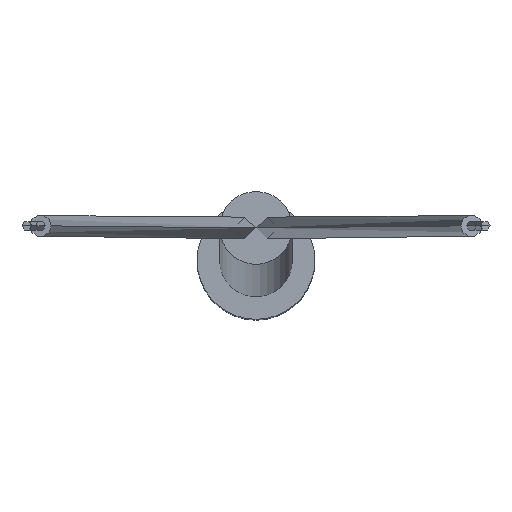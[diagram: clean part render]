
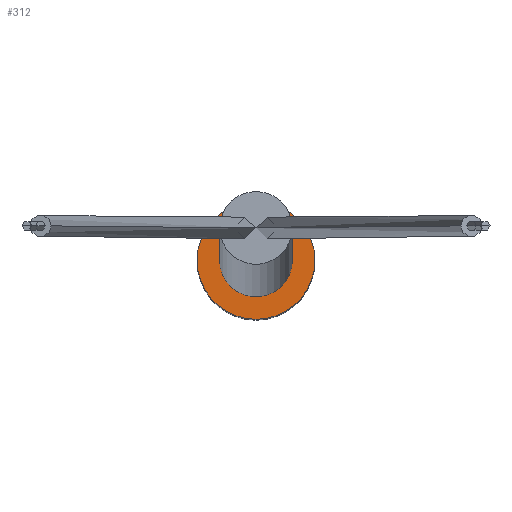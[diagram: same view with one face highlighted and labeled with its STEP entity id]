
A CAD part, top view. The second image highlights one B-rep face of the part: STEP entity #312.
In plain terms, the highlighted planar face has unit normal (0, 0, 1).
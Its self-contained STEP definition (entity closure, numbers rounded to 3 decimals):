
#152=CARTESIAN_POINT('',(0.,0.,0.));
#153=DIRECTION('',(0.,0.,-1.));
#154=DIRECTION('',(0.,-1.,0.));
#155=AXIS2_PLACEMENT_3D('',#152,#153,#154);
#161=CARTESIAN_POINT('',(0.,0.,0.));
#162=DIRECTION('',(0.,0.,-1.));
#163=DIRECTION('',(0.,1.,0.));
#164=AXIS2_PLACEMENT_3D('',#161,#162,#163);
#169=CARTESIAN_POINT('',(0.,0.,0.));
#170=DIRECTION('',(0.,0.,-1.));
#171=DIRECTION('',(-1.,0.,0.));
#172=AXIS2_PLACEMENT_3D('',#169,#170,#171);
#177=CARTESIAN_POINT('',(0.,0.,0.));
#178=DIRECTION('',(0.,0.,-1.));
#179=DIRECTION('',(1.,0.,0.));
#180=AXIS2_PLACEMENT_3D('',#177,#178,#179);
#275=CARTESIAN_POINT('',(0.,-3.,0.));
#276=CARTESIAN_POINT('',(0.,3.,0.));
#277=VERTEX_POINT('',#275);
#278=VERTEX_POINT('',#276);
#291=CARTESIAN_POINT('',(-1.85,0.,0.));
#292=CARTESIAN_POINT('',(1.85,0.,0.));
#293=VERTEX_POINT('',#291);
#294=VERTEX_POINT('',#292);
#295=CARTESIAN_POINT('',(0.,0.,0.));
#296=DIRECTION('',(0.,0.,-1.));
#297=DIRECTION('',(0.,-1.,0.));
#298=AXIS2_PLACEMENT_3D('',#295,#296,#297);
#299=PLANE('',#298);
#301=ORIENTED_EDGE('',*,*,#300,.T.);
#303=ORIENTED_EDGE('',*,*,#302,.T.);
#304=EDGE_LOOP('',(#301,#303));
#305=FACE_OUTER_BOUND('',#304,.F.);
#307=ORIENTED_EDGE('',*,*,#306,.F.);
#309=ORIENTED_EDGE('',*,*,#308,.F.);
#310=EDGE_LOOP('',(#307,#309));
#311=FACE_BOUND('',#310,.F.);
#156=CIRCLE('',#155,3.);
#165=CIRCLE('',#164,3.);
#173=CIRCLE('',#172,1.85);
#181=CIRCLE('',#180,1.85);
#300=EDGE_CURVE('',#277,#278,#156,.T.);
#302=EDGE_CURVE('',#278,#277,#165,.T.);
#306=EDGE_CURVE('',#293,#294,#173,.T.);
#308=EDGE_CURVE('',#294,#293,#181,.T.);
#312=ADVANCED_FACE('',(#305,#311),#299,.F.);
